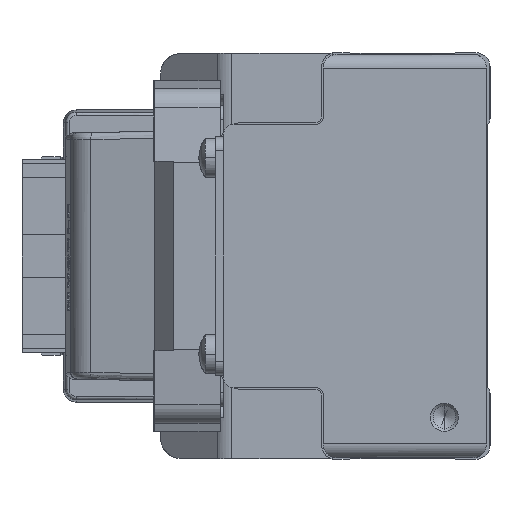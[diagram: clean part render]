
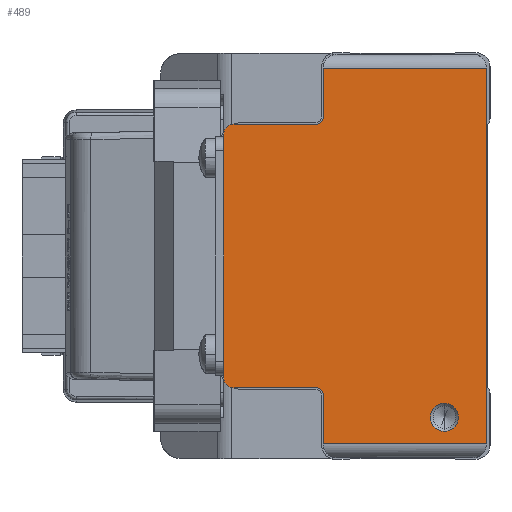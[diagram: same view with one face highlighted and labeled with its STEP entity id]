
A CAD part, left-side view. The second image highlights one B-rep face of the part: STEP entity #489.
In plain terms, the highlighted planar face has unit normal (-1, 0, 0) as drawn and (0, 0, 1) by its records, which use the part's own axes.
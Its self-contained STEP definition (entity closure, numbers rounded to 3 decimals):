
#131 = EDGE_CURVE ( 'NONE', #20237, #37478, #9915, .T. ) ;
#198 = DIRECTION ( 'NONE',  ( 0., 0., -1. ) ) ;
#265 = LINE ( 'NONE', #40403, #6470 ) ;
#489 = ADVANCED_FACE ( 'NONE', ( #29251, #22645 ), #40041, .T. ) ;
#792 = VECTOR ( 'NONE', #1581, 1000. ) ;
#1090 = LINE ( 'NONE', #37901, #14380 ) ;
#1581 = DIRECTION ( 'NONE',  ( 0., -1., 0. ) ) ;
#2083 = CARTESIAN_POINT ( 'NONE',  ( -19.8, 23.8, 320. ) ) ;
#2561 = CARTESIAN_POINT ( 'NONE',  ( -17.3, 36.5, 320. ) ) ;
#3472 = AXIS2_PLACEMENT_3D ( 'NONE', #30392, #198, #13717 ) ;
#4010 = DIRECTION ( 'NONE',  ( 1., 0., 0. ) ) ;
#4036 = EDGE_CURVE ( 'NONE', #4284, #4819, #265, .T. ) ;
#4064 = VERTEX_POINT ( 'NONE', #18178 ) ;
#4065 = CARTESIAN_POINT ( 'NONE',  ( 26.8, 23.8, 320. ) ) ;
#4224 = EDGE_CURVE ( 'NONE', #13502, #40039, #35066, .T. ) ;
#4284 = VERTEX_POINT ( 'NONE', #29341 ) ;
#4791 = CARTESIAN_POINT ( 'NONE',  ( -21., 6.5, 320. ) ) ;
#4819 = VERTEX_POINT ( 'NONE', #14204 ) ;
#4892 = CARTESIAN_POINT ( 'NONE',  ( 26.8, 24., 320. ) ) ;
#5439 = ORIENTED_EDGE ( 'NONE', *, *, #27682, .T. ) ;
#5852 = LINE ( 'NONE', #29420, #38209 ) ;
#5883 = ORIENTED_EDGE ( 'NONE', *, *, #25456, .T. ) ;
#6317 = CIRCLE ( 'NONE', #3472, 2. ) ;
#6411 = AXIS2_PLACEMENT_3D ( 'NONE', #25746, #35458, #39205 ) ;
#6470 = VECTOR ( 'NONE', #11111, 1000. ) ;
#6509 = CARTESIAN_POINT ( 'NONE',  ( 19.8, 23.8, 320. ) ) ;
#7308 = VERTEX_POINT ( 'NONE', #2083 ) ;
#8180 = LINE ( 'NONE', #32358, #11697 ) ;
#8772 = CIRCLE ( 'NONE', #16543, 1.5 ) ;
#9181 = DIRECTION ( 'NONE',  ( 1., 0., 0. ) ) ;
#9915 = CIRCLE ( 'NONE', #6411, 2. ) ;
#10735 = DIRECTION ( 'NONE',  ( 0., -1., 0. ) ) ;
#11076 = DIRECTION ( 'NONE',  ( 0., 0., 1. ) ) ;
#11111 = DIRECTION ( 'NONE',  ( 0., -1., 0. ) ) ;
#11520 = CIRCLE ( 'NONE', #24192, 1. ) ;
#11697 = VECTOR ( 'NONE', #42143, 1000. ) ;
#11987 = ORIENTED_EDGE ( 'NONE', *, *, #12731, .F. ) ;
#12731 = EDGE_CURVE ( 'NONE', #7308, #24535, #32445, .T. ) ;
#13401 = CARTESIAN_POINT ( 'NONE',  ( -18.8, 24.8, 320. ) ) ;
#13458 = EDGE_CURVE ( 'NONE', #4819, #40039, #5852, .T. ) ;
#13487 = VERTEX_POINT ( 'NONE', #6509 ) ;
#13502 = VERTEX_POINT ( 'NONE', #4065 ) ;
#13645 = EDGE_CURVE ( 'NONE', #17695, #13487, #11520, .T. ) ;
#13717 = DIRECTION ( 'NONE',  ( -1., 0., 0. ) ) ;
#13742 = CARTESIAN_POINT ( 'NONE',  ( 17.3, 36.5, 320. ) ) ;
#13867 = DIRECTION ( 'NONE',  ( -1., 0., 0. ) ) ;
#13869 = ORIENTED_EDGE ( 'NONE', *, *, #4224, .F. ) ;
#14204 = CARTESIAN_POINT ( 'NONE',  ( -26.8, 0.5, 320. ) ) ;
#14380 = VECTOR ( 'NONE', #37442, 1000. ) ;
#14715 = CARTESIAN_POINT ( 'NONE',  ( 18.8, 24.8, 320. ) ) ;
#16543 = AXIS2_PLACEMENT_3D ( 'NONE', #13742, #11076, #24487 ) ;
#16960 = EDGE_CURVE ( 'NONE', #30292, #4064, #8772, .T. ) ;
#17410 = LINE ( 'NONE', #37598, #31646 ) ;
#17562 = EDGE_CURVE ( 'NONE', #32000, #24535, #17410, .T. ) ;
#17695 = VERTEX_POINT ( 'NONE', #14715 ) ;
#18064 = VECTOR ( 'NONE', #42123, 1000. ) ;
#18178 = CARTESIAN_POINT ( 'NONE',  ( 17.3, 38., 320. ) ) ;
#18241 = AXIS2_PLACEMENT_3D ( 'NONE', #26362, #29903, #43157 ) ;
#18365 = CARTESIAN_POINT ( 'NONE',  ( -18.8, 36.5, 320. ) ) ;
#18487 = VERTEX_POINT ( 'NONE', #22653 ) ;
#18532 = EDGE_CURVE ( 'NONE', #13502, #13487, #20436, .T. ) ;
#18845 = ORIENTED_EDGE ( 'NONE', *, *, #131, .T. ) ;
#19326 = CARTESIAN_POINT ( 'NONE',  ( 26.8, 0.5, 320. ) ) ;
#19678 = DIRECTION ( 'NONE',  ( 1., 0., 0. ) ) ;
#19850 = EDGE_CURVE ( 'NONE', #17695, #30292, #1090, .T. ) ;
#20234 = CARTESIAN_POINT ( 'NONE',  ( 26.8, 23.8, 320. ) ) ;
#20237 = VERTEX_POINT ( 'NONE', #33762 ) ;
#20436 = LINE ( 'NONE', #20234, #42333 ) ;
#20573 = LINE ( 'NONE', #43069, #18064 ) ;
#20796 = CARTESIAN_POINT ( 'NONE',  ( 18.8, 36.5, 320. ) ) ;
#22212 = EDGE_LOOP ( 'NONE', ( #18845, #5439 ) ) ;
#22645 = FACE_OUTER_BOUND ( 'NONE', #24991, .T. ) ;
#22653 = CARTESIAN_POINT ( 'NONE',  ( -17.3, 38., 320. ) ) ;
#22973 = CARTESIAN_POINT ( 'NONE',  ( -19.8, 24.8, 320. ) ) ;
#24192 = AXIS2_PLACEMENT_3D ( 'NONE', #41276, #27790, #4010 ) ;
#24381 = AXIS2_PLACEMENT_3D ( 'NONE', #2561, #29231, #9181 ) ;
#24487 = DIRECTION ( 'NONE',  ( 1., 0., 0. ) ) ;
#24535 = VERTEX_POINT ( 'NONE', #13401 ) ;
#24991 = EDGE_LOOP ( 'NONE', ( #40029, #11987, #5883, #36417, #43203, #13869, #31712, #41582, #37391, #31416, #26299, #27643 ) ) ;
#25456 = EDGE_CURVE ( 'NONE', #7308, #4284, #8180, .T. ) ;
#25746 = CARTESIAN_POINT ( 'NONE',  ( -23., 6.5, 320. ) ) ;
#26075 = DIRECTION ( 'NONE',  ( 1., 0., 0. ) ) ;
#26299 = ORIENTED_EDGE ( 'NONE', *, *, #37151, .T. ) ;
#26362 = CARTESIAN_POINT ( 'NONE',  ( -26.8, 21.8, 320. ) ) ;
#27643 = ORIENTED_EDGE ( 'NONE', *, *, #40951, .T. ) ;
#27682 = EDGE_CURVE ( 'NONE', #37478, #20237, #6317, .T. ) ;
#27790 = DIRECTION ( 'NONE',  ( 0., 0., 1. ) ) ;
#29231 = DIRECTION ( 'NONE',  ( 0., 0., 1. ) ) ;
#29251 = FACE_BOUND ( 'NONE', #22212, .T. ) ;
#29341 = CARTESIAN_POINT ( 'NONE',  ( -26.8, 23.8, 320. ) ) ;
#29420 = CARTESIAN_POINT ( 'NONE',  ( -26.8, 0.5, 320. ) ) ;
#29903 = DIRECTION ( 'NONE',  ( 0., 0., 1. ) ) ;
#30292 = VERTEX_POINT ( 'NONE', #20796 ) ;
#30392 = CARTESIAN_POINT ( 'NONE',  ( -23., 6.5, 320. ) ) ;
#31416 = ORIENTED_EDGE ( 'NONE', *, *, #16960, .T. ) ;
#31646 = VECTOR ( 'NONE', #10735, 1000. ) ;
#31712 = ORIENTED_EDGE ( 'NONE', *, *, #18532, .T. ) ;
#32000 = VERTEX_POINT ( 'NONE', #18365 ) ;
#32358 = CARTESIAN_POINT ( 'NONE',  ( -19.8, 23.8, 320. ) ) ;
#32445 = CIRCLE ( 'NONE', #35986, 1. ) ;
#33762 = CARTESIAN_POINT ( 'NONE',  ( -25., 6.5, 320. ) ) ;
#35066 = LINE ( 'NONE', #4892, #792 ) ;
#35458 = DIRECTION ( 'NONE',  ( 0., 0., -1. ) ) ;
#35986 = AXIS2_PLACEMENT_3D ( 'NONE', #22973, #36399, #19678 ) ;
#36399 = DIRECTION ( 'NONE',  ( 0., 0., 1. ) ) ;
#36417 = ORIENTED_EDGE ( 'NONE', *, *, #4036, .T. ) ;
#37151 = EDGE_CURVE ( 'NONE', #4064, #18487, #20573, .T. ) ;
#37391 = ORIENTED_EDGE ( 'NONE', *, *, #19850, .T. ) ;
#37442 = DIRECTION ( 'NONE',  ( 0., 1., 0. ) ) ;
#37478 = VERTEX_POINT ( 'NONE', #4791 ) ;
#37598 = CARTESIAN_POINT ( 'NONE',  ( -18.8, 36.5, 320. ) ) ;
#37901 = CARTESIAN_POINT ( 'NONE',  ( 18.8, 24.8, 320. ) ) ;
#38209 = VECTOR ( 'NONE', #26075, 1000. ) ;
#39205 = DIRECTION ( 'NONE',  ( -1., 0., 0. ) ) ;
#40029 = ORIENTED_EDGE ( 'NONE', *, *, #17562, .T. ) ;
#40039 = VERTEX_POINT ( 'NONE', #19326 ) ;
#40041 = PLANE ( 'NONE',  #18241 ) ;
#40403 = CARTESIAN_POINT ( 'NONE',  ( -26.8, 24., 320. ) ) ;
#40951 = EDGE_CURVE ( 'NONE', #18487, #32000, #43405, .T. ) ;
#41276 = CARTESIAN_POINT ( 'NONE',  ( 19.8, 24.8, 320. ) ) ;
#41582 = ORIENTED_EDGE ( 'NONE', *, *, #13645, .F. ) ;
#42123 = DIRECTION ( 'NONE',  ( -1., 0., 0. ) ) ;
#42143 = DIRECTION ( 'NONE',  ( -1., 0., 0. ) ) ;
#42333 = VECTOR ( 'NONE', #13867, 1000. ) ;
#43069 = CARTESIAN_POINT ( 'NONE',  ( 17.3, 38., 320. ) ) ;
#43157 = DIRECTION ( 'NONE',  ( 1., 0., 0. ) ) ;
#43203 = ORIENTED_EDGE ( 'NONE', *, *, #13458, .T. ) ;
#43405 = CIRCLE ( 'NONE', #24381, 1.5 ) ;
